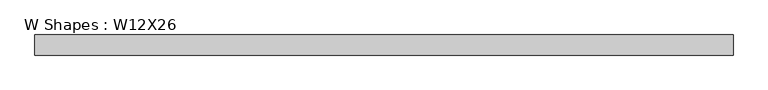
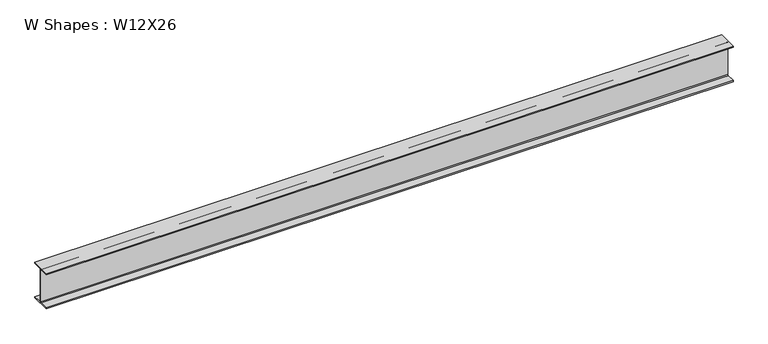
"""IFC4 building model written with IfcOpenShell, lengths in millimetres: beam geometry, W Shapes : W12X26."""

import ifcopenshell
import ifcopenshell.guid

model = None  # the IFC model being written
_history = None  # IfcOwnerHistory: only IFC2X3 demands one
_inside = {}  # id of a spatial element -> (the spatial element, [elements in it])
_under = {}  # id of a project, library or spatial element -> (it, [spatial elements below it])
_declared = {}  # id of a project -> (the project, [libraries it declares])
_typed = {}  # id of a type object -> (the type object, [elements of that type])
_made_of = {}  # id of a material, layer set ... -> (it, [elements and type objects made of it])


def new_model(schema):
    """Start an empty IFC model of exactly this schema.

    Asked for "IFC4X3", IfcOpenShell would pick the latest addendum, in which some entities
    have other attributes; the version numbers below select the first issue.
    IFC2X3 requires an IfcOwnerHistory on every rooted entity: one is made here for all.
    """
    global model, _history
    if schema == "IFC4X3":
        model = ifcopenshell.file(schema_version=(4, 3, 0, 0))
    else:
        model = ifcopenshell.file(schema=schema)
    _inside.clear()
    _under.clear()
    _declared.clear()
    _typed.clear()
    _made_of.clear()
    _history = None
    if model.schema == "IFC2X3":
        org = make("IfcOrganization", Name="unknown")
        user = make(
            "IfcPersonAndOrganization",
            ThePerson=make("IfcPerson", FamilyName="unknown"),
            TheOrganization=org,
        )
        app = make(
            "IfcApplication",
            ApplicationDeveloper=org,
            Version="unknown",
            ApplicationFullName="unknown",
            ApplicationIdentifier="unknown",
        )
        _history = make(
            "IfcOwnerHistory",
            OwningUser=user,
            OwningApplication=app,
            ChangeAction="ADDED",
            CreationDate=0,
        )
    return model


def make(cls, **values):
    """One entity of the class cls with the attributes given. An attribute that is None is left unset."""
    return model.create_entity(
        cls, **{name: value for name, value in values.items() if value is not None}
    )


def rooted(cls, **values):
    """An entity with a GlobalId (a new one), such as an element, a storey or a relation."""
    return make(cls, GlobalId=ifcopenshell.guid.new(), OwnerHistory=_history, **values)


def si_unit(unit_type, name, prefix=None):
    """IfcSIUnit, for example si_unit("LENGTHUNIT", "METRE", prefix="MILLI")."""
    return make("IfcSIUnit", UnitType=unit_type, Prefix=prefix, Name=name)


def assignment(units):
    """IfcUnitAssignment: the units of a project."""
    return None if units is None else make("IfcUnitAssignment", Units=units)


def point(xyz):
    """IfcCartesianPoint."""
    return None if xyz is None else make("IfcCartesianPoint", Coordinates=xyz)


def direction(xyz):
    """IfcDirection."""
    return None if xyz is None else make("IfcDirection", DirectionRatios=xyz)


def frame(location, z_axis=None, x_axis=None):
    """IfcAxis2Placement3D, a coordinate frame: its origin and axes. An axis left out is left unset."""
    return make(
        "IfcAxis2Placement3D",
        Location=point(location),
        Axis=direction(z_axis),
        RefDirection=direction(x_axis),
    )


def frame_2d(location, x_axis=None):
    """IfcAxis2Placement2D, a coordinate frame in the plane: its origin and x axis."""
    return make(
        "IfcAxis2Placement2D", Location=point(location), RefDirection=direction(x_axis)
    )


def origin():
    """The frame at (0, 0, 0) with its axes left unset."""
    return frame((0.0, 0.0, 0.0))


def place(relative_to, where):
    """IfcLocalPlacement: puts the frame where relative to a parent placement (None: the world)."""
    return make(
        "IfcLocalPlacement", PlacementRelTo=relative_to, RelativePlacement=where
    )


def context(
    kind, dimensions, precision=None, world=None, true_north=None, identifier=None
):
    """IfcGeometricRepresentationContext, for example the 3D "Model" context."""
    return make(
        "IfcGeometricRepresentationContext",
        ContextIdentifier=identifier,
        ContextType=kind,
        CoordinateSpaceDimension=dimensions,
        Precision=precision,
        WorldCoordinateSystem=world,
        TrueNorth=true_north,
    )


def project(units=None, contexts=None):
    """IfcProject with its units and contexts."""
    return rooted(
        "IfcProject",
        Name="project",
        RepresentationContexts=contexts,
        UnitsInContext=assignment(units),
    )


def spatial(cls, under=None, at=None, **own):
    """A site, building, storey or space (cls), placed at a placement, below another one or the project."""
    s = rooted(cls, ObjectPlacement=at, **own)
    if under is not None:
        _under.setdefault(under.id(), (under, []))[1].append(s)
    return s


def polyline(points):
    """IfcPolyline through the points."""
    return make("IfcPolyline", Points=[point(p) for p in points])


def circle_curve(where, radius):
    """IfcCircle in the frame where."""
    return make("IfcCircle", Position=where, Radius=radius)


def trimmed(basis, trim1, trim2, sense, master):
    """IfcTrimmedCurve: the piece of a basis curve between two trims."""
    return make(
        "IfcTrimmedCurve",
        BasisCurve=basis,
        Trim1=trim1,
        Trim2=trim2,
        SenseAgreement=sense,
        MasterRepresentation=master,
    )


def segment(curve, same_sense, transition):
    """IfcCompositeCurveSegment."""
    return make(
        "IfcCompositeCurveSegment",
        Transition=transition,
        SameSense=same_sense,
        ParentCurve=curve,
    )


def composite_curve(segments, self_intersect=None):
    """IfcCompositeCurve: segments joined end to end."""
    return make("IfcCompositeCurve", Segments=segments, SelfIntersect=self_intersect)


def outline(outer, holes=None, kind="AREA"):
    """IfcArbitraryClosedProfileDef: a profile drawn as a closed curve; with holes, ...WithVoids."""
    if holes is None:
        return make("IfcArbitraryClosedProfileDef", ProfileType=kind, OuterCurve=outer)
    return make(
        "IfcArbitraryProfileDefWithVoids",
        ProfileType=kind,
        OuterCurve=outer,
        InnerCurves=holes,
    )


def extrude(swept, where, along, depth):
    """IfcExtrudedAreaSolid: the profile swept, set in the frame where, extruded along a direction by depth."""
    return make(
        "IfcExtrudedAreaSolid",
        SweptArea=swept,
        Position=where,
        ExtrudedDirection=direction(along),
        Depth=depth,
    )


def shape(context_of_items, identifier, shape_type, items):
    """IfcShapeRepresentation: the items that make up one representation, for example the "Body"."""
    return make(
        "IfcShapeRepresentation",
        ContextOfItems=context_of_items,
        RepresentationIdentifier=identifier,
        RepresentationType=shape_type,
        Items=items,
    )


def source(mapping_origin, context_of_items, identifier, shape_type, items):
    """IfcRepresentationMap: a shape defined once, which mapped items show again and again."""
    return make(
        "IfcRepresentationMap",
        MappingOrigin=mapping_origin,
        MappedRepresentation=shape(context_of_items, identifier, shape_type, items),
    )


def transform(
    local_origin,
    x_axis=None,
    y_axis=None,
    z_axis=None,
    scale=None,
    scale2=None,
    scale3=None,
    uniform=True,
):
    """IfcCartesianTransformationOperator3D, or its non-uniform kind. x_axis, y_axis, z_axis: its Axis1, 2, 3."""
    if uniform:
        return make(
            "IfcCartesianTransformationOperator3D",
            Axis1=direction(x_axis),
            Axis2=direction(y_axis),
            LocalOrigin=point(local_origin),
            Scale=scale,
            Axis3=direction(z_axis),
        )
    return make(
        "IfcCartesianTransformationOperator3DnonUniform",
        Axis1=direction(x_axis),
        Axis2=direction(y_axis),
        LocalOrigin=point(local_origin),
        Scale=scale,
        Axis3=direction(z_axis),
        Scale2=scale2,
        Scale3=scale3,
    )


def mapped(mapping_source, mapping_target):
    """IfcMappedItem: shows the shape of a source again, moved by a transform."""
    return make(
        "IfcMappedItem", MappingSource=mapping_source, MappingTarget=mapping_target
    )


def made_of(thing, what):
    """Note that an element or type object is made of a material, layer set ...; save() writes the relation."""
    if what is not None:
        _made_of.setdefault(what.id(), (what, []))[1].append(thing)
    return thing


def element(
    cls,
    number,
    at=None,
    inside=None,
    cuts=None,
    type_object=None,
    material=None,
    context=None,
    identifier="Body",
    shape_type=None,
    held_by="IfcProductDefinitionShape",
    body=None,
    shapes=None,
    **own,
):
    """One element of the class cls, such as IfcWall. Its Tag is "e" and its number.

    at: its placement. inside: the storey or other place that contains it. cuts: it is an
    opening in that element (IfcRelVoidsElement). A single representation is given by context,
    identifier, shape_type and body (its items); several are given by shapes. held_by: the class
    of the entity that holds the representations. save() writes the other relations.
    """
    e = rooted(cls, Tag="e%d" % number, ObjectPlacement=at, **own)
    if body is not None:
        shapes = [shape(context, identifier, shape_type, body)]
    if shapes is not None:
        e.Representation = make(held_by, Representations=shapes)
    if inside is not None:
        _inside.setdefault(inside.id(), (inside, []))[1].append(e)
    if cuts is not None:
        rooted(
            "IfcRelVoidsElement", RelatingBuildingElement=cuts, RelatedOpeningElement=e
        )
    if type_object is not None:
        _typed.setdefault(type_object.id(), (type_object, []))[1].append(e)
    return made_of(e, material)


def aggregate(whole, parts):
    """IfcRelAggregates: a whole, such as a stair, and the parts it consists of."""
    return rooted("IfcRelAggregates", RelatingObject=whole, RelatedObjects=parts)


def save(model, path):
    """Write the relations noted so far, then the file.

    IfcRelAggregates (storeys below a building ...), IfcRelContainedInSpatialStructure (elements
    in a storey), IfcRelDefinesByType, IfcRelAssociatesMaterial and IfcRelDeclares: one each for
    every whole, place, type object, material and project.
    """
    for whole, parts in _under.values():
        aggregate(whole, parts)
    for where, things in _inside.values():
        rooted(
            "IfcRelContainedInSpatialStructure",
            RelatedElements=things,
            RelatingStructure=where,
        )
    for kind, things in _typed.values():
        rooted("IfcRelDefinesByType", RelatedObjects=things, RelatingType=kind)
    for what, things in _made_of.values():
        rooted("IfcRelAssociatesMaterial", RelatedObjects=things, RelatingMaterial=what)
    for by, libraries in _declared.values():
        rooted("IfcRelDeclares", RelatingContext=by, RelatedDefinitions=libraries)
    model.write(path)


def w_shapes_w12x26_597c9bcb(model_context):
    return source(origin(), model_context, "Body", "SweptSolid", [
        extrude(outline(composite_curve([segment(polyline([(82.423, -145.288), (82.423, -154.94), (-82.423, -154.94), (-82.423, -145.288), (-10.541, -145.288)]), True, "CONTINUOUS"), segment(trimmed(circle_curve(frame_2d((-10.541, -137.668)), 7.62), [point((-10.541, -145.288))], [point((-2.921, -137.668))], True, "CARTESIAN"), True, "CONTINUOUS"), segment(polyline([(-2.921, -137.668), (-2.921, 137.668)]), True, "CONTINUOUS"), segment(trimmed(circle_curve(frame_2d((-10.541, 137.668)), 7.62), [point((-2.921, 137.668))], [point((-10.541, 145.288))], True, "CARTESIAN"), True, "CONTINUOUS"), segment(polyline([(-10.541, 145.288), (-82.423, 145.288), (-82.423, 154.94), (82.423, 154.94), (82.423, 145.288), (10.541, 145.288)]), True, "CONTINUOUS"), segment(trimmed(circle_curve(frame_2d((10.541, 137.668)), 7.62), [point((10.541, 145.288))], [point((2.921, 137.668))], True, "CARTESIAN"), True, "CONTINUOUS"), segment(polyline([(2.921, 137.668), (2.921, -137.668)]), True, "CONTINUOUS"), segment(trimmed(circle_curve(frame_2d((10.541, -137.668)), 7.62), [point((2.921, -137.668))], [point((10.541, -145.288))], True, "CARTESIAN"), True, "CONTINUOUS"), segment(polyline([(10.541, -145.288), (82.423, -145.288)]), True, "CONTINUOUS")], self_intersect=False)), frame((-2838.45, 0.0, 0.0), z_axis=(1.0, 0.0, 0.0), x_axis=(0.0, 1.0, 0.0)), (0.0, 0.0, 1.0), 5705.729),
    ])


if __name__ == "__main__":
    model = new_model("IFC4")
    model_context = context("Model", 3, world=origin())
    ifc_project = project(units=[si_unit("LENGTHUNIT", "METRE", prefix="MILLI")], contexts=[model_context])
    site = spatial("IfcSite", under=ifc_project)
    building = spatial("IfcBuilding", under=site)
    placement = place(None, origin())
    w_shapes_w12x26_shape = w_shapes_w12x26_597c9bcb(model_context)
    element("IfcBeam", 1, ObjectType="W Shapes : W12X26", at=placement, inside=building, context=model_context, shape_type="MappedRepresentation", body=[
        mapped(w_shapes_w12x26_shape, transform((0.0, 0.0, 0.0), x_axis=(1.0, 0.0, 0.0), y_axis=(0.0, 1.0, 0.0), z_axis=(0.0, 0.0, 1.0))),
    ])
    save(model, "model.ifc")
